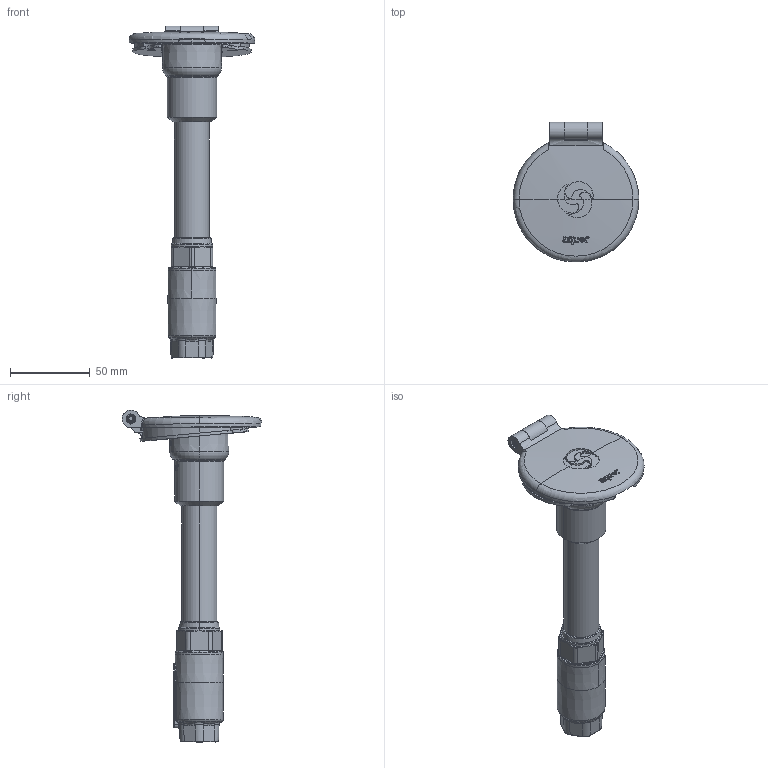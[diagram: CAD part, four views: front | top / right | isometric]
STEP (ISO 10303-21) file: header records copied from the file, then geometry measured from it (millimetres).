
FILE_DESCRIPTION (( 'STEP AP214' ), '1' );
FILE_NAME ('V1-House_Hydrant_ASSY_For_6.STEP', '2022-09-02T18:45:39', ( '' ), ( '' ), 'SwSTEP 2.0', 'SolidWorks 2021', '' );
FILE_SCHEMA (( 'AUTOMOTIVE_DESIGN' ));
Length unit declared in the file: inch
Products named in the file (1): V1-House_Hydrant_ASSY_For_6
Bounding box: 79 x 87.89 x 208.64 mm (x, y, z)
Volume: 135216.2 mm3; surface area: 56406.7 mm2
Topology: 4 solids, 9 shells, 4780 faces, 12709 edges, 8268 vertices
Faces by surface type: bspline 2436, plane 1539, sphere 364, cylinder 247, torus 117, cone 77
Entity records: 265981 total; most frequent: CARTESIAN_POINT 100894, ORIENTED_EDGE 25318, DIRECTION 15176, EDGE_CURVE 12659, VERTEX_POINT 8268, AXIS2_PLACEMENT_3D 5672, B_SPLINE_CURVE_WITH_KNOTS 5285, EDGE_LOOP 5169
